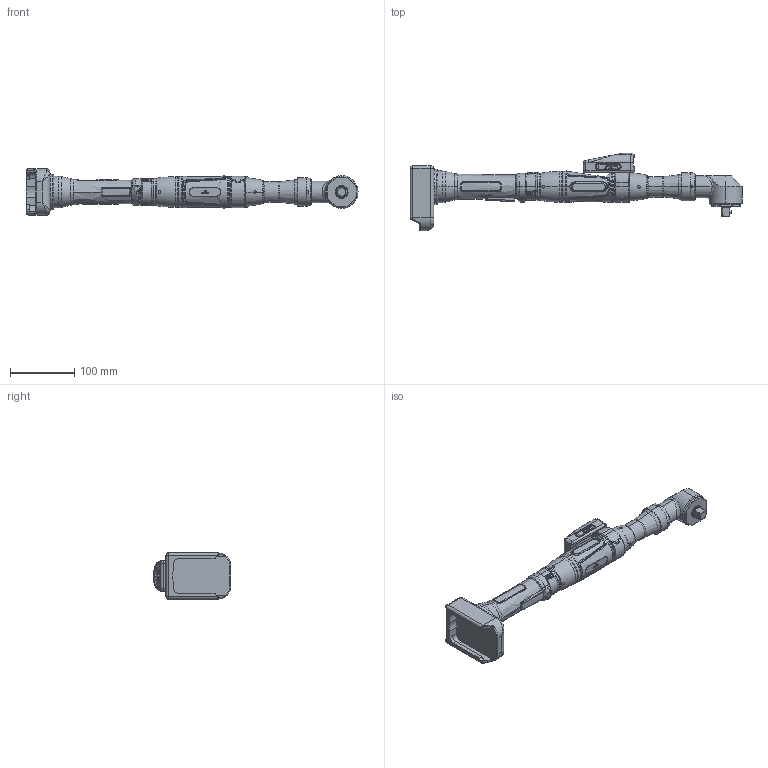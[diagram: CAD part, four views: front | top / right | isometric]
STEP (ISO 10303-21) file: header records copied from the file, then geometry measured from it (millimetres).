
FILE_DESCRIPTION (( 'STEP AP214' ), '1' );
FILE_NAME ('70122807_HSXBW1064WV38DS.STEP', '2026-04-01T06:34:50', ( '' ), ( '' ), 'SwSTEP 2.0', 'SolidWorks 2020', '' );
FILE_SCHEMA (( 'AUTOMOTIVE_DESIGN' ));
Length unit declared in the file: millimetre
Products named in the file (1): 70122807_HSXBW1064WV38DS
Bounding box: 517.95 x 120.8 x 72 mm (x, y, z)
Volume: 935712.7 mm3; surface area: 147751.9 mm2
Topology: 7 solids, 9 shells, 2413 faces, 6157 edges, 3835 vertices
Faces by surface type: plane 846, cylinder 739, bspline 446, torus 208, cone 144, sphere 30
Entity records: 128788 total; most frequent: CARTESIAN_POINT 47587, ORIENTED_EDGE 12250, DIRECTION 10318, EDGE_CURVE 6125, AXIS2_PLACEMENT_3D 3888, VERTEX_POINT 3832, LINE 2542, VECTOR 2542
